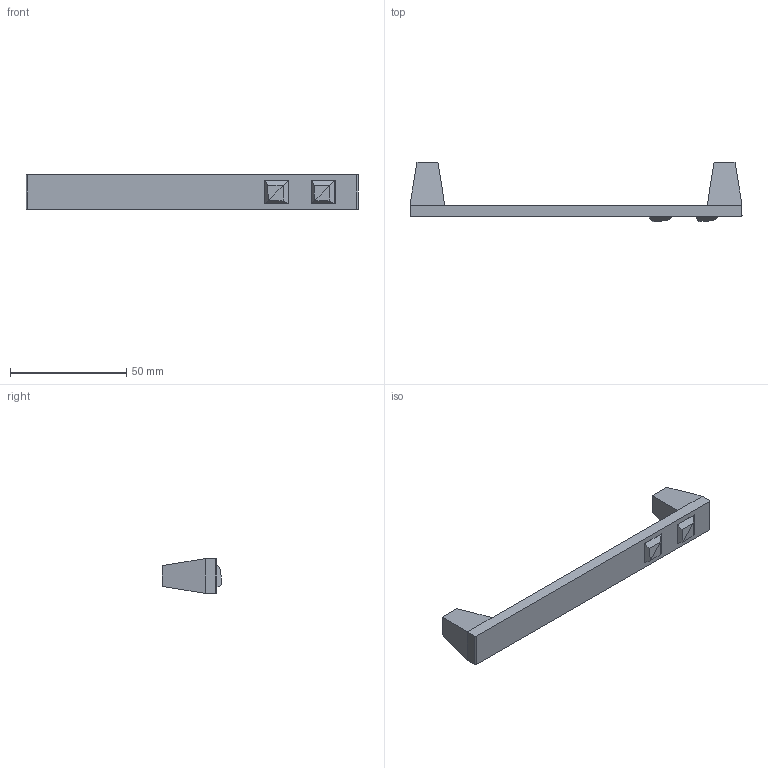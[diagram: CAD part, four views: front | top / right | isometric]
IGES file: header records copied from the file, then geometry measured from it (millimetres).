
Start section: Data from Parasolid IGES Translator 15.0.47, Copyright(c) 2006 Siemens P LM Software. All Rights Reserved.
Global section: file name:  9113692.igs; native system:  By UGS Corp.; preprocessor: XPlus GENERIC/IGES 3.0; author: Noname; organization: Noname; date: 20140122.172435; units: millimetre
Bounding box: 143 x 25.5 x 15 mm (x, y, z)
Surface area: 7755.1 mm2 (no closed solid volume)
Topology: 0 solids, 0 shells, 52 faces, 224 edges, 222 vertices
Faces by surface type: extrusion 48, revolution 4
